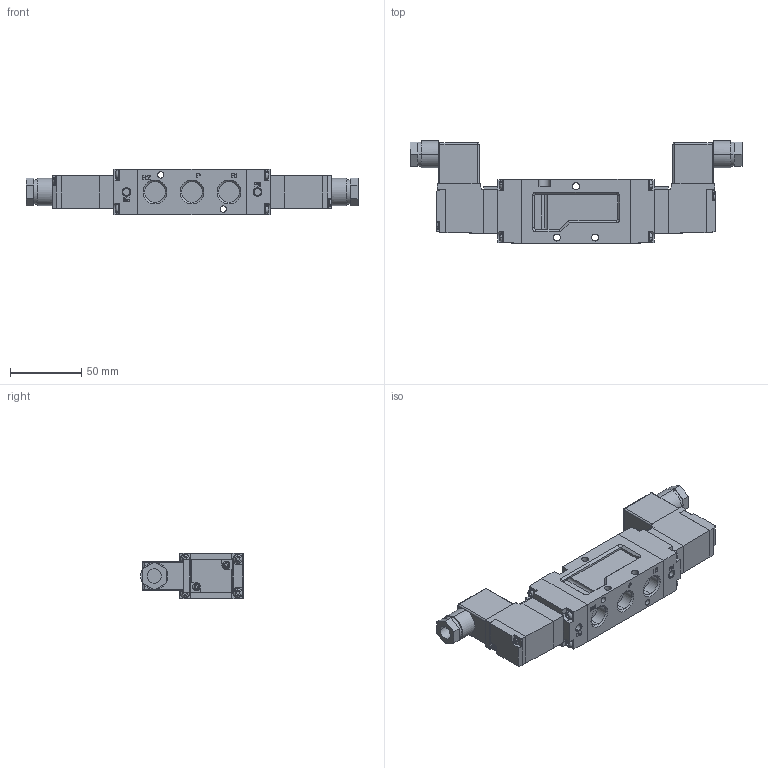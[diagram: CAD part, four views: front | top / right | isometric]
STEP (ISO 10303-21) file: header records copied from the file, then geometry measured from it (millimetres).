
FILE_DESCRIPTION (( 'STEP AP203' ), '1' );
FILE_NAME ('RKD2450-03-#-D.STEP', '2016-02-17T01:13:26', ( 'Sam Lin' ), ( '' ), 'SwSTEP 2.0', 'SolidWorks 2013', '' );
FILE_SCHEMA (( 'CONFIG_CONTROL_DESIGN' ));
Length unit declared in the file: metre
Products named in the file (10): COIL_ASM_D_1; PILOT_BODY; PILOT_BODY_1; PILOT_COVER; PILOT_COVER_1; ADAPTER_SV300; RKD2450-03-#-D; ADAPTER_SV300_1; BODY_SV300; COIL_ASM_D
Assembly tree (9 placements, depth 2):
  RKD2450-03-#-D
    ADAPTER_SV300
    ADAPTER_SV300_1
    BODY_SV300
    COIL_ASM_D
    COIL_ASM_D_1
    PILOT_BODY
    PILOT_BODY_1
    PILOT_COVER
    PILOT_COVER_1
Bounding box: 233.1 x 72.02 x 32 mm (x, y, z)
Volume: 245033.6 mm3; surface area: 59594.1 mm2
Topology: 9 solids, 9 shells, 892 faces, 2372 edges, 1544 vertices
Faces by surface type: plane 635, cylinder 181, torus 44, cone 20, bspline 12
Entity records: 32071 total; most frequent: CARTESIAN_POINT 9538, ORIENTED_EDGE 4744, DIRECTION 3995, EDGE_CURVE 2372, VERTEX_POINT 1544, VECTOR 1537, LINE 1537, AXIS2_PLACEMENT_3D 1229
